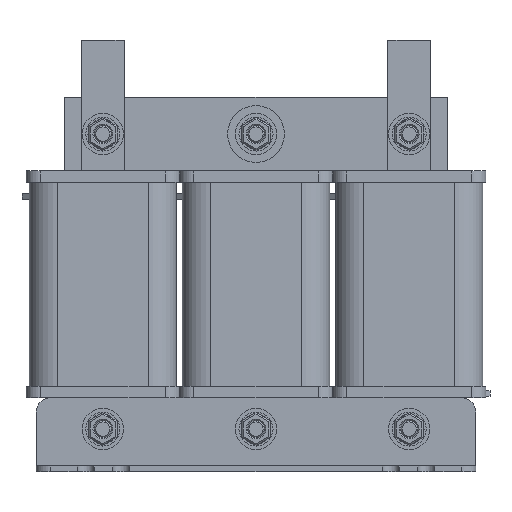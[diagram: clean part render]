
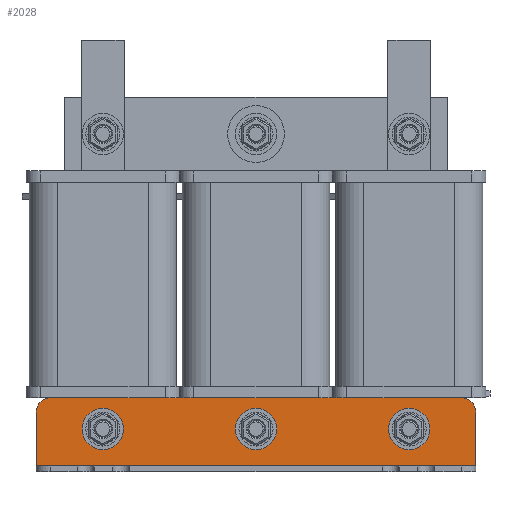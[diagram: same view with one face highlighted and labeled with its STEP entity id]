
A CAD part, front view. The second image highlights one B-rep face of the part: STEP entity #2028.
In plain terms, the highlighted planar face has unit normal (0, -1, 0) as drawn and (0, 1, 0) by its records, which use the part's own axes.
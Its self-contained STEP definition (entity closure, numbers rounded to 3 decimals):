
#2028=ADVANCED_FACE('',(#2277,#2279,#2281,#2283),#2285,.T.);
#2277=FACE_BOUND('',#2278,.T.);
#2278=EDGE_LOOP('',(#3589,#3590,#3591,#3592,#3593,#3594));
#2279=FACE_BOUND('',#2280,.T.);
#2280=EDGE_LOOP('',(#3595));
#2281=FACE_BOUND('',#2282,.T.);
#2282=EDGE_LOOP('',(#3596));
#2283=FACE_BOUND('',#2284,.T.);
#2284=EDGE_LOOP('',(#3597));
#2285=PLANE('',#2286);
#2286=AXIS2_PLACEMENT_3D('',#2287,#2288,#2289);
#2287=CARTESIAN_POINT('',(77.5,-14.5,2.));
#2288=DIRECTION('',(0.,1.,-0.));
#2289=DIRECTION('',(-1.,0.,0.));
#3589=ORIENTED_EDGE('',*,*,#4381,.F.);
#3590=ORIENTED_EDGE('',*,*,#4382,.F.);
#3591=ORIENTED_EDGE('',*,*,#4383,.T.);
#3592=ORIENTED_EDGE('',*,*,#4384,.T.);
#3593=ORIENTED_EDGE('',*,*,#4385,.F.);
#3594=ORIENTED_EDGE('',*,*,#4386,.F.);
#3595=ORIENTED_EDGE('',*,*,#4387,.T.);
#3596=ORIENTED_EDGE('',*,*,#4388,.T.);
#3597=ORIENTED_EDGE('',*,*,#4389,.T.);
#4381=EDGE_CURVE('',#4800,#4801,#4802,.F.);
#4382=EDGE_CURVE('',#4803,#4800,#4804,.T.);
#4383=EDGE_CURVE('',#4803,#4805,#4806,.T.);
#4384=EDGE_CURVE('',#4805,#4807,#4808,.T.);
#4385=EDGE_CURVE('',#4809,#4807,#4810,.F.);
#4386=EDGE_CURVE('',#4801,#4809,#4811,.T.);
#4387=EDGE_CURVE('',#4812,#4812,#4813,.F.);
#4388=EDGE_CURVE('',#4814,#4814,#4815,.F.);
#4389=EDGE_CURVE('',#4816,#4816,#4817,.F.);
#4800=VERTEX_POINT('',#5524);
#4801=VERTEX_POINT('',#5525);
#4802=CIRCLE('',#5526,5.);
#4803=VERTEX_POINT('',#5530);
#4804=LINE('',#5531,#5532);
#4805=VERTEX_POINT('',#5534);
#4806=LINE('',#5535,#5536);
#4807=VERTEX_POINT('',#5538);
#4808=LINE('',#5539,#5540);
#4809=VERTEX_POINT('',#5542);
#4810=CIRCLE('',#5543,5.);
#4811=LINE('',#5547,#5548);
#4812=VERTEX_POINT('',#5550);
#4813=CIRCLE('',#5551,3.);
#4814=VERTEX_POINT('',#5555);
#4815=CIRCLE('',#5556,3.);
#4816=VERTEX_POINT('',#5560);
#4817=CIRCLE('',#5561,3.);
#5524=CARTESIAN_POINT('',(77.5,-14.5,21.));
#5525=CARTESIAN_POINT('',(72.5,-14.5,26.));
#5526=AXIS2_PLACEMENT_3D('',#5527,#5528,#5529);
#5527=CARTESIAN_POINT('',(72.5,-14.5,21.));
#5528=DIRECTION('',(0.,1.,-0.));
#5529=DIRECTION('',(0.,0.,1.));
#5530=CARTESIAN_POINT('',(77.5,-14.5,2.));
#5531=CARTESIAN_POINT('',(77.5,-14.5,2.));
#5532=VECTOR('',#5533,1.);
#5533=DIRECTION('',(0.,0.,1.));
#5534=CARTESIAN_POINT('',(-77.5,-14.5,2.));
#5535=CARTESIAN_POINT('',(77.5,-14.5,2.));
#5536=VECTOR('',#5537,1.);
#5537=DIRECTION('',(-1.,0.,0.));
#5538=CARTESIAN_POINT('',(-77.5,-14.5,21.));
#5539=CARTESIAN_POINT('',(-77.5,-14.5,2.));
#5540=VECTOR('',#5541,1.);
#5541=DIRECTION('',(0.,0.,1.));
#5542=CARTESIAN_POINT('',(-72.5,-14.5,26.));
#5543=AXIS2_PLACEMENT_3D('',#5544,#5545,#5546);
#5544=CARTESIAN_POINT('',(-72.5,-14.5,21.));
#5545=DIRECTION('',(0.,1.,-0.));
#5546=DIRECTION('',(-1.,0.,0.));
#5547=CARTESIAN_POINT('',(72.5,-14.5,26.));
#5548=VECTOR('',#5549,1.);
#5549=DIRECTION('',(-1.,0.,0.));
#5550=CARTESIAN_POINT('',(51.,-14.5,15.));
#5551=AXIS2_PLACEMENT_3D('',#5552,#5553,#5554);
#5552=CARTESIAN_POINT('',(54.,-14.5,15.));
#5553=DIRECTION('',(0.,1.,-0.));
#5554=DIRECTION('',(-1.,0.,0.));
#5555=CARTESIAN_POINT('',(-3.,-14.5,15.));
#5556=AXIS2_PLACEMENT_3D('',#5557,#5558,#5559);
#5557=CARTESIAN_POINT('',(0.,-14.5,15.));
#5558=DIRECTION('',(0.,1.,-0.));
#5559=DIRECTION('',(-1.,0.,0.));
#5560=CARTESIAN_POINT('',(-57.,-14.5,15.));
#5561=AXIS2_PLACEMENT_3D('',#5562,#5563,#5564);
#5562=CARTESIAN_POINT('',(-54.,-14.5,15.));
#5563=DIRECTION('',(0.,1.,-0.));
#5564=DIRECTION('',(-1.,0.,0.));
